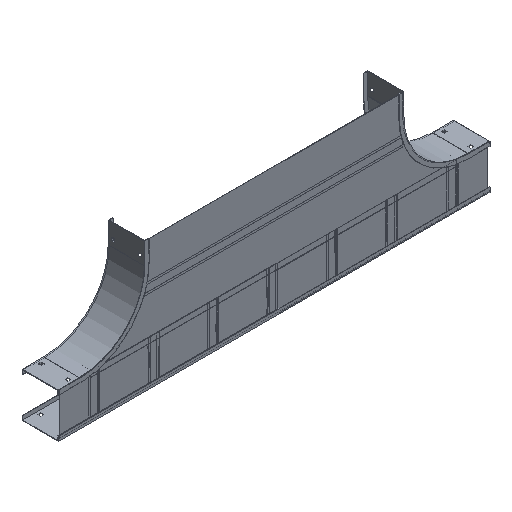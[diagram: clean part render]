
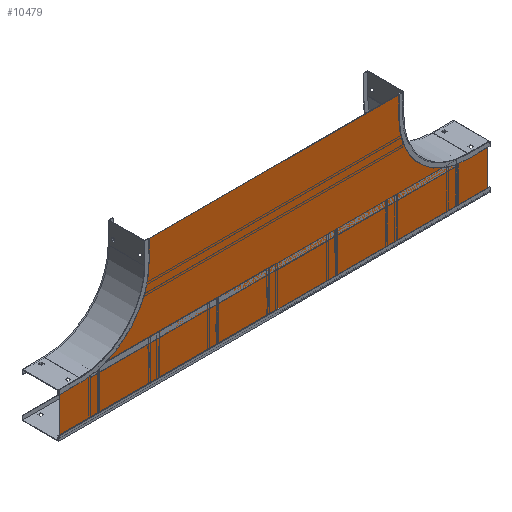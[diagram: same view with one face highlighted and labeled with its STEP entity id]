
A CAD part, isometric view. The second image highlights one B-rep face of the part: STEP entity #10479.
In plain terms, the highlighted planar face has unit normal (0, -1, 0).
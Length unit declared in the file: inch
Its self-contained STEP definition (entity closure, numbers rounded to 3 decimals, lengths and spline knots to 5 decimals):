
#10288=DIRECTION('',(1.,0.,0.));
#10289=VECTOR('',#10288,35.875);
#10290=CARTESIAN_POINT('',(-17.9375,0.,0.));
#10291=LINE('',#10290,#10289);
#10292=DIRECTION('',(0.,0.,-1.));
#10293=VECTOR('',#10292,2.875);
#10294=CARTESIAN_POINT('',(17.9375,0.,0.));
#10295=LINE('',#10294,#10293);
#10296=CARTESIAN_POINT('',(27.,0.,-2.875));
#10297=DIRECTION('',(0.,-1.,0.));
#10298=DIRECTION('',(-1.,0.,0.));
#10299=AXIS2_PLACEMENT_3D('',#10296,#10297,#10298);
#10301=DIRECTION('',(1.,0.,0.));
#10302=VECTOR('',#10301,2.875);
#10303=CARTESIAN_POINT('',(27.,0.,-11.9375));
#10304=LINE('',#10303,#10302);
#10305=DIRECTION('',(0.,0.,-1.));
#10306=VECTOR('',#10305,5.875);
#10307=CARTESIAN_POINT('',(29.875,0.,-11.9375));
#10308=LINE('',#10307,#10306);
#10309=DIRECTION('',(-1.,0.,0.));
#10310=VECTOR('',#10309,59.75);
#10311=CARTESIAN_POINT('',(29.875,0.,-17.8125));
#10312=LINE('',#10311,#10310);
#10313=DIRECTION('',(0.,0.,1.));
#10314=VECTOR('',#10313,5.875);
#10315=CARTESIAN_POINT('',(-29.875,0.,-17.8125));
#10316=LINE('',#10315,#10314);
#10317=DIRECTION('',(1.,0.,0.));
#10318=VECTOR('',#10317,2.875);
#10319=CARTESIAN_POINT('',(-29.875,0.,-11.9375));
#10320=LINE('',#10319,#10318);
#10321=CARTESIAN_POINT('',(-27.,0.,-2.875));
#10322=DIRECTION('',(0.,-1.,0.));
#10323=DIRECTION('',(0.,0.,-1.));
#10324=AXIS2_PLACEMENT_3D('',#10321,#10322,#10323);
#10326=DIRECTION('',(0.,0.,1.));
#10327=VECTOR('',#10326,2.875);
#10328=CARTESIAN_POINT('',(-17.9375,0.,-2.875));
#10329=LINE('',#10328,#10327);
#10412=CARTESIAN_POINT('',(-17.9375,0.,0.));
#10413=CARTESIAN_POINT('',(17.9375,0.,0.));
#10414=VERTEX_POINT('',#10412);
#10415=VERTEX_POINT('',#10413);
#10416=CARTESIAN_POINT('',(17.9375,0.,-2.875));
#10417=VERTEX_POINT('',#10416);
#10418=CARTESIAN_POINT('',(27.,0.,-11.9375));
#10419=VERTEX_POINT('',#10418);
#10420=CARTESIAN_POINT('',(29.875,0.,-11.9375));
#10421=VERTEX_POINT('',#10420);
#10422=CARTESIAN_POINT('',(29.875,0.,-17.8125));
#10423=VERTEX_POINT('',#10422);
#10424=CARTESIAN_POINT('',(-29.875,0.,-17.8125));
#10425=VERTEX_POINT('',#10424);
#10426=CARTESIAN_POINT('',(-29.875,0.,-11.9375));
#10427=VERTEX_POINT('',#10426);
#10428=CARTESIAN_POINT('',(-27.,0.,-11.9375));
#10429=VERTEX_POINT('',#10428);
#10430=CARTESIAN_POINT('',(-17.9375,0.,-2.875));
#10431=VERTEX_POINT('',#10430);
#10452=CARTESIAN_POINT('',(0.,0.,0.));
#10453=DIRECTION('',(0.,1.,0.));
#10454=DIRECTION('',(1.,0.,0.));
#10455=AXIS2_PLACEMENT_3D('',#10452,#10453,#10454);
#10456=PLANE('',#10455);
#10458=ORIENTED_EDGE('',*,*,#10457,.T.);
#10460=ORIENTED_EDGE('',*,*,#10459,.T.);
#10462=ORIENTED_EDGE('',*,*,#10461,.T.);
#10464=ORIENTED_EDGE('',*,*,#10463,.T.);
#10466=ORIENTED_EDGE('',*,*,#10465,.T.);
#10468=ORIENTED_EDGE('',*,*,#10467,.T.);
#10470=ORIENTED_EDGE('',*,*,#10469,.T.);
#10472=ORIENTED_EDGE('',*,*,#10471,.T.);
#10474=ORIENTED_EDGE('',*,*,#10473,.T.);
#10476=ORIENTED_EDGE('',*,*,#10475,.T.);
#10477=EDGE_LOOP('',(#10458,#10460,#10462,#10464,#10466,#10468,#10470,#10472,
#10474,#10476));
#10478=FACE_OUTER_BOUND('',#10477,.F.);
#10479=ADVANCED_FACE('',(#10478),#10456,.F.);
#10300=CIRCLE('',#10299,9.0625);
#10325=CIRCLE('',#10324,9.0625);
#10457=EDGE_CURVE('',#10414,#10415,#10291,.T.);
#10459=EDGE_CURVE('',#10415,#10417,#10295,.T.);
#10461=EDGE_CURVE('',#10417,#10419,#10300,.T.);
#10463=EDGE_CURVE('',#10419,#10421,#10304,.T.);
#10465=EDGE_CURVE('',#10421,#10423,#10308,.T.);
#10467=EDGE_CURVE('',#10423,#10425,#10312,.T.);
#10469=EDGE_CURVE('',#10425,#10427,#10316,.T.);
#10471=EDGE_CURVE('',#10427,#10429,#10320,.T.);
#10473=EDGE_CURVE('',#10429,#10431,#10325,.T.);
#10475=EDGE_CURVE('',#10431,#10414,#10329,.T.);
